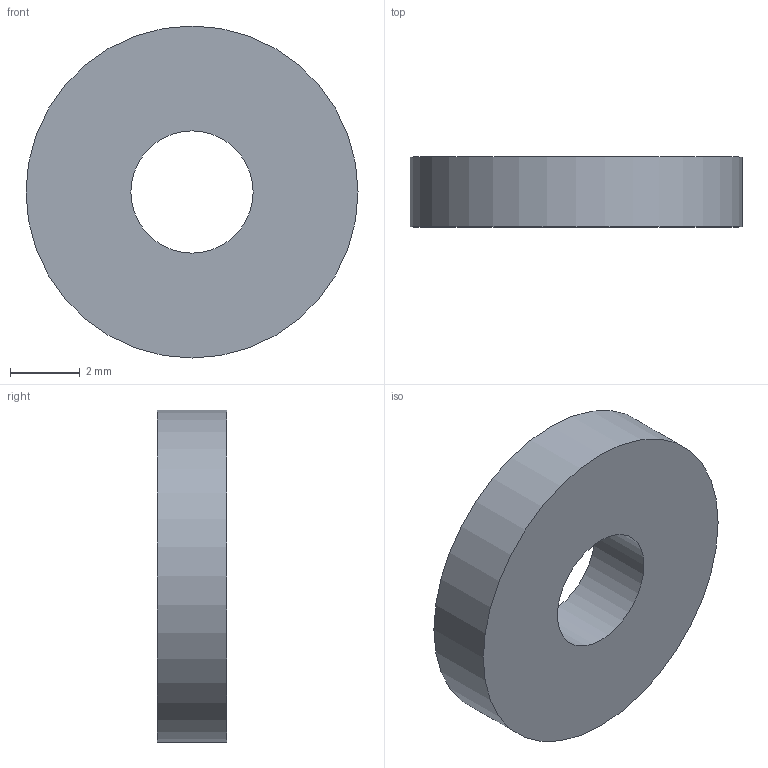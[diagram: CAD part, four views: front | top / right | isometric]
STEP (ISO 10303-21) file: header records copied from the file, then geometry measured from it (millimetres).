
FILE_DESCRIPTION(/* description */ (''),/* implementation_level */ '2;1');
FILE_NAME(/* name */ 'C:/Users/Ulises/Desktop/T1/mecanica_cad/espaciador_2mm.step',/* time_stamp */ '2020-10-16T01:33:04-03:00',/* author */ (''),/* organization */ (''),/* preprocessor_version */ 'ST-DEVELOPER v18.1',/* originating_system */ 'Autodesk Translation Framework v9.3.0.1241',/* authorisation */ '');
FILE_SCHEMA (('AUTOMOTIVE_DESIGN { 1 0 10303 214 3 1 1 }'));
Length unit declared in the file: millimetre
Products named in the file (1): espaciador_2mm
Bounding box: 9.5 x 2 x 9.5 mm (x, y, z)
Volume: 122.5 mm3; surface area: 204.2 mm2
Topology: 1 solids, 1 shells, 4 faces, 6 edges, 4 vertices
Faces by surface type: cylinder 2, plane 2
Full cylindrical faces by diameter (mm): 3.5 x1, 9.5 x1
Entity records: 138 total; most frequent: DIRECTION 20, CARTESIAN_POINT 15, ORIENTED_EDGE 12, AXIS2_PLACEMENT_3D 9, EDGE_LOOP 6, EDGE_CURVE 6, FACE_OUTER_BOUND 4, CIRCLE 4
